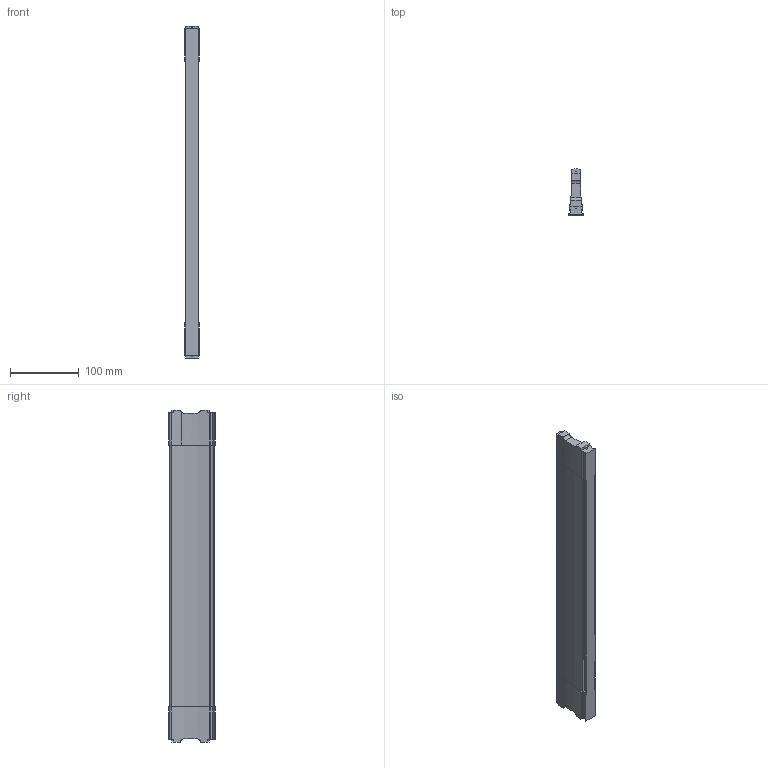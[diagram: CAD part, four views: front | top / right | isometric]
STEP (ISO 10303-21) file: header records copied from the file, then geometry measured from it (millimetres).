
FILE_DESCRIPTION (( 'STEP AP214' ), '1' );
FILE_NAME ('Traverse NOVAPro NL500 Mass X475,4.step', '2010-09-21T13:16:58', ( 'grass' ), ( '' ), 'SwSTEP 2.0', 'SolidWorks 2010', '' );
FILE_SCHEMA (( 'AUTOMOTIVE_DESIGN' ));
Length unit declared in the file: millimetre
Products named in the file (1): Traverse NOVAPro NL500 Mass X475,4
Bounding box: 21.4 x 67.5 x 484.4 mm (x, y, z)
Volume: 404569.9 mm3; surface area: 84512.7 mm2
Topology: 1 solids, 1 shells, 125 faces, 369 edges, 246 vertices
Faces by surface type: cylinder 68, plane 57
Entity records: 4377 total; most frequent: CARTESIAN_POINT 879, DIRECTION 753, ORIENTED_EDGE 738, EDGE_CURVE 369, AXIS2_PLACEMENT_3D 268, VERTEX_POINT 246, LINE 217, VECTOR 217
